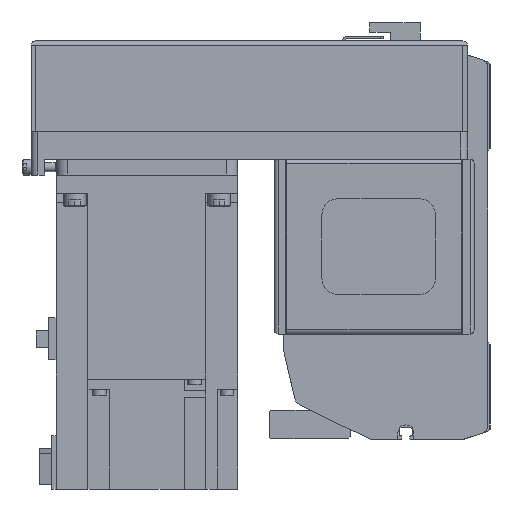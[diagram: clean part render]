
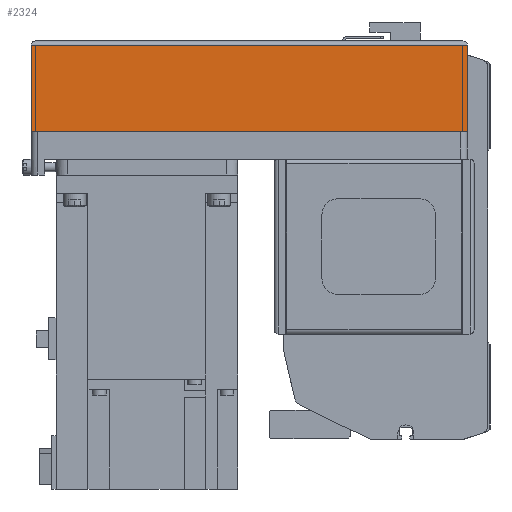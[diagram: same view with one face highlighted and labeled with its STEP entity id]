
A CAD part, left-side view. The second image highlights one B-rep face of the part: STEP entity #2324.
In plain terms, the highlighted planar face has unit normal (-1, 0, 0) as drawn and (0, 1, 0) by its records, which use the part's own axes.
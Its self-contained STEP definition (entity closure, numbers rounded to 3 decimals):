
#2324 = ADVANCED_FACE( '', ( #5126 ), #5127, .T. );
#5126 = FACE_OUTER_BOUND( '', #8372, .T. );
#5127 = PLANE( '', #8373 );
#8372 = EDGE_LOOP( '', ( #14973, #14974, #14975, #14976 ) );
#8373 = AXIS2_PLACEMENT_3D( '', #14977, #14978, #14979 );
#14973 = ORIENTED_EDGE( '', *, *, #20260, .F. );
#14974 = ORIENTED_EDGE( '', *, *, #21222, .F. );
#14975 = ORIENTED_EDGE( '', *, *, #21223, .T. );
#14976 = ORIENTED_EDGE( '', *, *, #21224, .T. );
#14977 = CARTESIAN_POINT( '', ( -192., 40., -50. ) );
#14978 = DIRECTION( '', ( 0., 1., 0. ) );
#14979 = DIRECTION( '', ( 0., 0., 1. ) );
#20260 = EDGE_CURVE( '', #24887, #24889, #24890, .T. );
#21222 = EDGE_CURVE( '', #26166, #24887, #26250, .T. );
#21223 = EDGE_CURVE( '', #26166, #24297, #26251, .T. );
#21224 = EDGE_CURVE( '', #24297, #24889, #26252, .T. );
#24297 = VERTEX_POINT( '', #30617 );
#24887 = VERTEX_POINT( '', #31424 );
#24889 = VERTEX_POINT( '', #31427 );
#24890 = LINE( '', #31428, #31429 );
#26166 = VERTEX_POINT( '', #33215 );
#26250 = LINE( '', #33365, #33366 );
#26251 = LINE( '', #33367, #33368 );
#26252 = LINE( '', #33369, #33370 );
#30617 = CARTESIAN_POINT( '', ( -192., 40., -12.1 ) );
#31424 = CARTESIAN_POINT( '', ( 0., 40., -50. ) );
#31427 = CARTESIAN_POINT( '', ( 0., 40., -12.1 ) );
#31428 = CARTESIAN_POINT( '', ( 0., 40., -50. ) );
#31429 = VECTOR( '', #36817, 1000. );
#33215 = CARTESIAN_POINT( '', ( -192., 40., -50. ) );
#33365 = CARTESIAN_POINT( '', ( -192., 40., -50. ) );
#33366 = VECTOR( '', #37980, 1000. );
#33367 = CARTESIAN_POINT( '', ( -192., 40., -50. ) );
#33368 = VECTOR( '', #37981, 1000. );
#33369 = CARTESIAN_POINT( '', ( -192., 40., -12.1 ) );
#33370 = VECTOR( '', #37982, 1000. );
#36817 = DIRECTION( '', ( 0., 0., 1. ) );
#37980 = DIRECTION( '', ( 1., 0., 0. ) );
#37981 = DIRECTION( '', ( 0., 0., 1. ) );
#37982 = DIRECTION( '', ( 1., 0., 0. ) );
